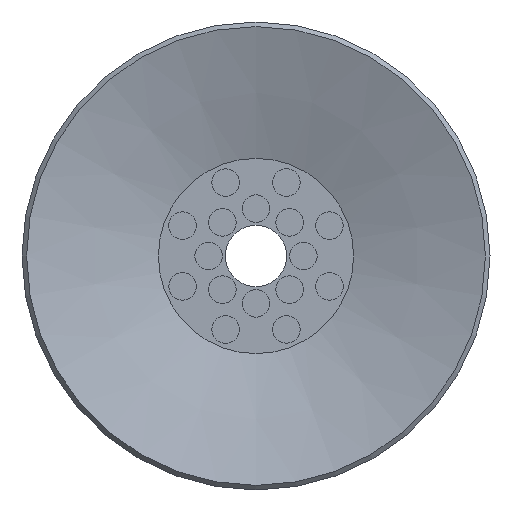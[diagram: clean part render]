
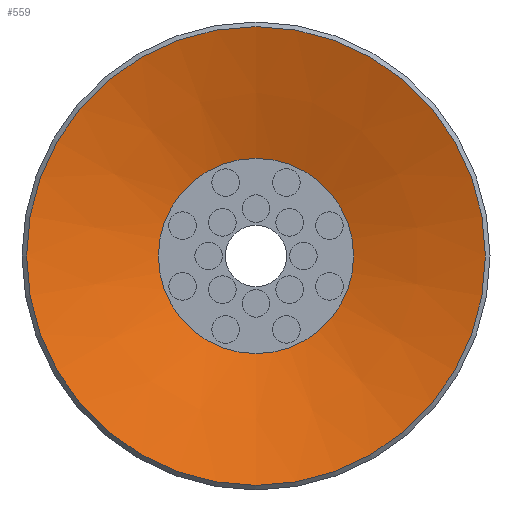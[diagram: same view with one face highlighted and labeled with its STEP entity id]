
A CAD part, front view. The second image highlights one B-rep face of the part: STEP entity #559.
In plain terms, the highlighted conical face has half-angle 72 degrees and reference radius 7.5 mm.
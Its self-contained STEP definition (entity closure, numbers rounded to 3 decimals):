
#559=ADVANCED_FACE('',(#908,#909),#910,.F.);
#908=FACE_BOUND('',#1356,.T.);
#909=FACE_OUTER_BOUND('',#1357,.T.);
#910=CONICAL_SURFACE('',#1358,7.5,1.257);
#1356=EDGE_LOOP('',(#2376));
#1357=EDGE_LOOP('',(#2377));
#1358=AXIS2_PLACEMENT_3D('',#2378,#2379,#2380);
#2376=ORIENTED_EDGE('',*,*,#2907,.T.);
#2377=ORIENTED_EDGE('',*,*,#2923,.F.);
#2378=CARTESIAN_POINT('',(0.0,0.,0.));
#2379=DIRECTION('',(0.0,0.,-1.0));
#2380=DIRECTION('',(0.0,1.0,0.));
#2907=EDGE_CURVE('',#3274,#3274,#3275,.T.);
#2923=EDGE_CURVE('',#3306,#3306,#3307,.T.);
#3274=VERTEX_POINT('',#4042);
#3275=CIRCLE('',#4043,3.191);
#3306=VERTEX_POINT('',#4074);
#3307=CIRCLE('',#4075,7.5);
#4042=CARTESIAN_POINT('',(0.0,-3.191,1.4));
#4043=AXIS2_PLACEMENT_3D('',#4815,#4816,#4817);
#4074=CARTESIAN_POINT('',(0.0,-7.5,0.));
#4075=AXIS2_PLACEMENT_3D('',#4863,#4864,#4865);
#4815=CARTESIAN_POINT('',(0.0,0.,1.4));
#4816=DIRECTION('',(0.0,0.,1.0));
#4817=DIRECTION('',(0.0,-1.0,0.));
#4863=CARTESIAN_POINT('',(0.0,0.,0.));
#4864=DIRECTION('',(0.0,0.,1.0));
#4865=DIRECTION('',(0.0,-1.0,0.));
